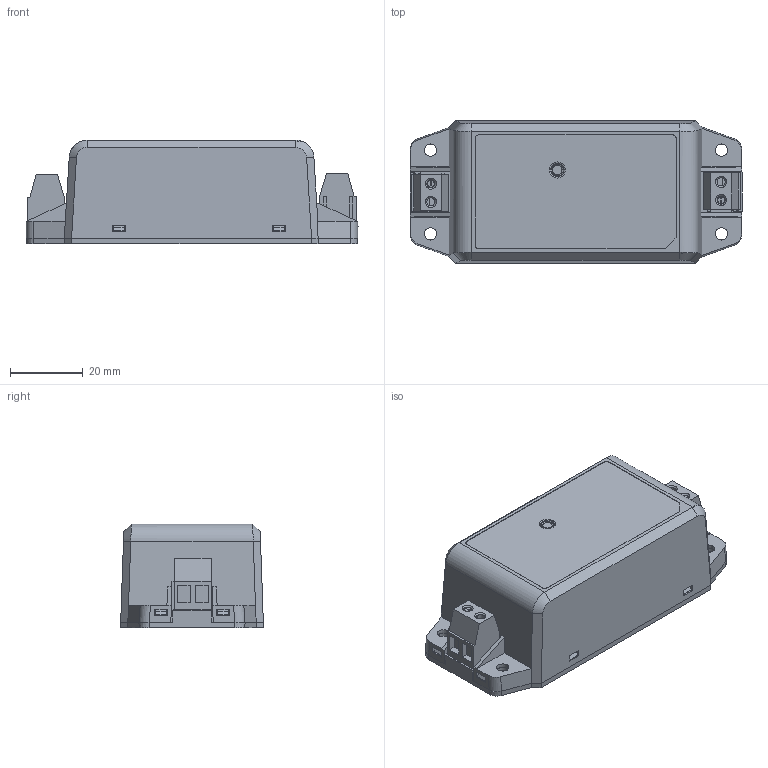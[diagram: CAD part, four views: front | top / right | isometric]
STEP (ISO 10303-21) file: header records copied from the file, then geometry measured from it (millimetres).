
FILE_DESCRIPTION(('Creo Elements/Direct Modeling STEP Export'),'2;1');
FILE_NAME('MPM-30ST.stp','2021-05-11T16:35:21',(''),(''),'PTC Creo Elements/Direct Modeling STEP processor for AP214 (Solid Model)','PTC Creo Elements/Direct Modeling 19.0E 27-Jun-2016 (C) Parametric Technology GmbH','');
FILE_SCHEMA(('AUTOMOTIVE_DESIGN { 1 0 10303 214 1 1 1 1 }'));
Length unit declared in the file: millimetre
Products named in the file (38): IRM30ST-D; IRM30ST-T; ST-CASE; CASE; PCB-30ST; PCB-MPM-30ST; P; PCB-MPM-30; PCB-MPM30; PCB; PINRY085; PINRY085.1; PINRY085.2; PINRY085.3; PIN-MPMST; PIN; 11_PRT_1.PRT; 11_PRT.PRT; SS_PRT.PRT; C5.ASM; C1; FS1; C106.PRT; TF; Q1.PRT; lf1; C105; C3; C4; CUSZ015; PART; MFM-30; TB2; TB; MPM-30-ST; 零件; MFM-ST30; MPM-30ST.stp
Assembly tree (38 placements, depth 7):
  MPM-30ST.stp
    MFM-ST30
      零件
        MPM-30-ST
          TB
            TB2  x2
        MFM-30
          PART
            CUSZ015
            C4
            C3
            C105
            lf1
            Q1.PRT
            TF
            C106.PRT
            FS1
            C1
            C5.ASM
              SS_PRT.PRT
              11_PRT.PRT
              11_PRT_1.PRT
      PIN
        PIN-MPMST
          PINRY085.3
          PINRY085.2
          PINRY085.1
          PINRY085
      PCB
        PCB-MPM30
          PCB-MPM-30
            P
        PCB-MPM-30ST
          PCB-30ST
      CASE
        ST-CASE
          IRM30ST-T
          IRM30ST-D
Bounding box: 91.23 x 39.21 x 28.5 mm (x, y, z)
Volume: 34969.2 mm3; surface area: 45830.2 mm2
Topology: 22 solids, 25 shells, 983 faces, 2551 edges, 1661 vertices
Faces by surface type: plane 642, cylinder 184, cone 115, torus 28, bspline 14
Entity records: 28690 total; most frequent: CARTESIAN_POINT 6132, ORIENTED_EDGE 4686, DIRECTION 4213, EDGE_CURVE 2338, VECTOR 1583, LINE 1583, VERTEX_POINT 1515, AXIS2_PLACEMENT_3D 1315
